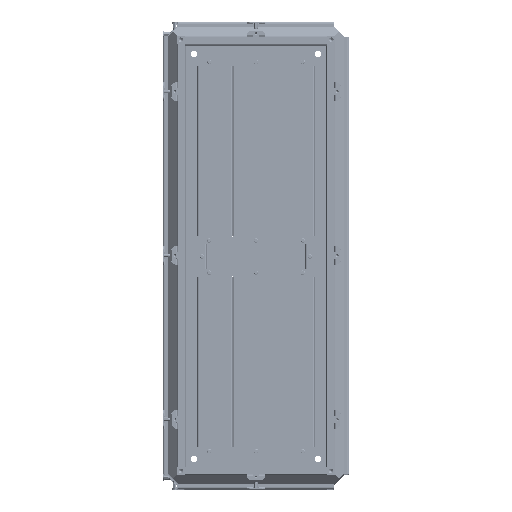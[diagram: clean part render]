
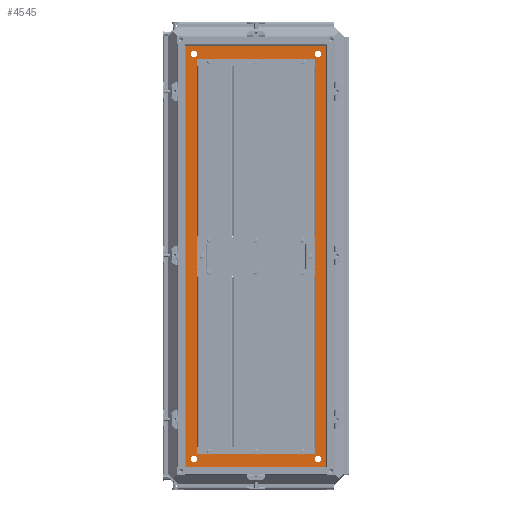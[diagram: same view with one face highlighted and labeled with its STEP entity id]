
A CAD part, top view. The second image highlights one B-rep face of the part: STEP entity #4545.
In plain terms, the highlighted planar face has unit normal (0, 0, 1).
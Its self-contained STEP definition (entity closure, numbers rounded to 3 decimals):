
#4545=ADVANCED_FACE('',(#16167,#16169,#16171,#16173,#16175,#16177),#16179,.F.);
#16167=FACE_BOUND('',#16168,.T.);
#16168=EDGE_LOOP('',(#104259,#104260,#104261,#104262));
#16169=FACE_BOUND('',#16170,.T.);
#16170=EDGE_LOOP('',(#104263,#104264,#104265,#104266));
#16171=FACE_BOUND('',#16172,.T.);
#16172=EDGE_LOOP('',(#104267));
#16173=FACE_BOUND('',#16174,.T.);
#16174=EDGE_LOOP('',(#104268));
#16175=FACE_BOUND('',#16176,.T.);
#16176=EDGE_LOOP('',(#104269));
#16177=FACE_BOUND('',#16178,.T.);
#16178=EDGE_LOOP('',(#104270));
#16179=PLANE('',#16180);
#16180=AXIS2_PLACEMENT_3D('',#16181,#16182,#16183);
#16181=CARTESIAN_POINT('',(0.,0.,-47.5));
#16182=DIRECTION('',(0.,0.,-1.));
#16183=DIRECTION('',(0.,1.,0.));
#104259=ORIENTED_EDGE('',*,*,#157177,.F.);
#104260=ORIENTED_EDGE('',*,*,#157178,.F.);
#104261=ORIENTED_EDGE('',*,*,#157179,.T.);
#104262=ORIENTED_EDGE('',*,*,#157180,.T.);
#104263=ORIENTED_EDGE('',*,*,#157181,.T.);
#104264=ORIENTED_EDGE('',*,*,#157182,.F.);
#104265=ORIENTED_EDGE('',*,*,#157183,.F.);
#104266=ORIENTED_EDGE('',*,*,#157184,.F.);
#104267=ORIENTED_EDGE('',*,*,#157185,.T.);
#104268=ORIENTED_EDGE('',*,*,#157186,.F.);
#104269=ORIENTED_EDGE('',*,*,#157187,.F.);
#104270=ORIENTED_EDGE('',*,*,#157188,.T.);
#157177=EDGE_CURVE('',#184552,#184553,#184554,.F.);
#157178=EDGE_CURVE('',#184555,#184552,#184556,.F.);
#157179=EDGE_CURVE('',#184555,#184557,#184558,.F.);
#157180=EDGE_CURVE('',#184557,#184553,#184559,.F.);
#157181=EDGE_CURVE('',#184560,#184561,#184562,.F.);
#157182=EDGE_CURVE('',#184563,#184561,#184564,.F.);
#157183=EDGE_CURVE('',#184565,#184563,#184566,.F.);
#157184=EDGE_CURVE('',#184560,#184565,#184567,.F.);
#157185=EDGE_CURVE('',#184568,#184568,#184569,.T.);
#157186=EDGE_CURVE('',#184570,#184570,#184571,.T.);
#157187=EDGE_CURVE('',#184572,#184572,#184573,.T.);
#157188=EDGE_CURVE('',#184574,#184574,#184575,.T.);
#184552=VERTEX_POINT('',#232325);
#184553=VERTEX_POINT('',#232326);
#184554=LINE('',#232327,#232328);
#184555=VERTEX_POINT('',#232330);
#184556=LINE('',#232331,#232332);
#184557=VERTEX_POINT('',#232334);
#184558=LINE('',#232335,#232336);
#184559=LINE('',#232338,#232339);
#184560=VERTEX_POINT('',#232341);
#184561=VERTEX_POINT('',#232342);
#184562=LINE('',#232343,#232344);
#184563=VERTEX_POINT('',#232346);
#184564=LINE('',#232347,#232348);
#184565=VERTEX_POINT('',#232350);
#184566=LINE('',#232351,#232352);
#184567=LINE('',#232354,#232355);
#184568=VERTEX_POINT('',#232357);
#184569=CIRCLE('',#232358,7.);
#184570=VERTEX_POINT('',#232362);
#184571=CIRCLE('',#232363,7.);
#184572=VERTEX_POINT('',#232367);
#184573=CIRCLE('',#232368,7.);
#184574=VERTEX_POINT('',#232372);
#184575=CIRCLE('',#232373,7.);
#232325=CARTESIAN_POINT('',(-1.6,1.6,-47.5));
#232326=CARTESIAN_POINT('',(-300.4,1.6,-47.5));
#232327=CARTESIAN_POINT('',(-300.4,1.6,-47.5));
#232328=VECTOR('',#232329,1.);
#232329=DIRECTION('',(1.,0.,0.));
#232330=CARTESIAN_POINT('',(-1.6,900.4,-47.5));
#232331=CARTESIAN_POINT('',(-1.6,1.6,-47.5));
#232332=VECTOR('',#232333,1.);
#232333=DIRECTION('',(0.,1.,0.));
#232334=CARTESIAN_POINT('',(-300.4,900.4,-47.5));
#232335=CARTESIAN_POINT('',(-300.4,900.4,-47.5));
#232336=VECTOR('',#232337,1.);
#232337=DIRECTION('',(1.,0.,0.));
#232338=CARTESIAN_POINT('',(-300.4,1.6,-47.5));
#232339=VECTOR('',#232340,1.);
#232340=DIRECTION('',(0.,1.,0.));
#232341=CARTESIAN_POINT('',(-39.4,39.4,-47.5));
#232342=CARTESIAN_POINT('',(-262.6,39.4,-47.5));
#232343=CARTESIAN_POINT('',(-262.6,39.4,-47.5));
#232344=VECTOR('',#232345,1.);
#232345=DIRECTION('',(1.,0.,0.));
#232346=CARTESIAN_POINT('',(-262.6,862.6,-47.5));
#232347=CARTESIAN_POINT('',(-262.6,39.4,-47.5));
#232348=VECTOR('',#232349,1.);
#232349=DIRECTION('',(0.,1.,0.));
#232350=CARTESIAN_POINT('',(-39.4,862.6,-47.5));
#232351=CARTESIAN_POINT('',(-262.6,862.6,-47.5));
#232352=VECTOR('',#232353,1.);
#232353=DIRECTION('',(1.,0.,0.));
#232354=CARTESIAN_POINT('',(-39.4,862.6,-47.5));
#232355=VECTOR('',#232356,1.);
#232356=DIRECTION('',(0.,-1.,0.));
#232357=CARTESIAN_POINT('',(-18.5,25.5,-47.5));
#232358=AXIS2_PLACEMENT_3D('',#232359,#232360,#232361);
#232359=CARTESIAN_POINT('',(-18.5,18.5,-47.5));
#232360=DIRECTION('',(0.,0.,-1.));
#232361=DIRECTION('',(0.,1.,0.));
#232362=CARTESIAN_POINT('',(-283.5,25.5,-47.5));
#232363=AXIS2_PLACEMENT_3D('',#232364,#232365,#232366);
#232364=CARTESIAN_POINT('',(-283.5,18.5,-47.5));
#232365=DIRECTION('',(0.,0.,1.));
#232366=DIRECTION('',(0.,1.,0.));
#232367=CARTESIAN_POINT('',(-18.5,876.5,-47.5));
#232368=AXIS2_PLACEMENT_3D('',#232369,#232370,#232371);
#232369=CARTESIAN_POINT('',(-18.5,883.5,-47.5));
#232370=DIRECTION('',(0.,0.,1.));
#232371=DIRECTION('',(0.,-1.,0.));
#232372=CARTESIAN_POINT('',(-283.5,876.5,-47.5));
#232373=AXIS2_PLACEMENT_3D('',#232374,#232375,#232376);
#232374=CARTESIAN_POINT('',(-283.5,883.5,-47.5));
#232375=DIRECTION('',(0.,0.,-1.));
#232376=DIRECTION('',(0.,-1.,0.));
